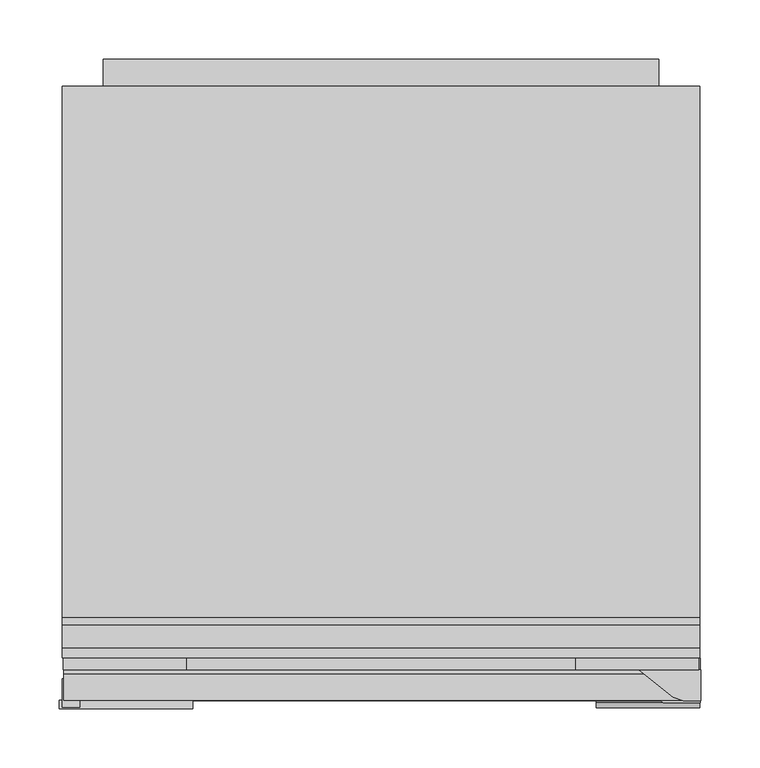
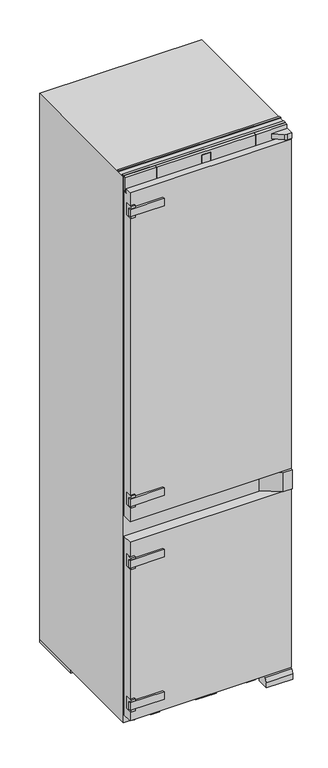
"""IFC4 building model written with IfcOpenShell, lengths in millimetres: proxy geometry, 12665220_EU1_KFN7833D : 38783300_EU1_12665220_KFN7833D."""

from ifc_helpers import new_model, si_unit, point, frame, frame_2d, origin, origin_with_axes, place, context, project, spatial, polyline, circle_curve, ellipse_curve, trimmed, segment, composite_curve, outline, extrude, faceted_brep, source, transform, mapped, element, save
from ifc_brep_helpers import plane_surface, cylinder_surface, advanced_brep


def specialty_equipment_9df1b869(model_context):
    return source(origin(), model_context, "Body", "SolidModel", [
        extrude(outline(polyline([(-268.65, 43.0), (268.65, 43.0), (268.65, 7.0), (-268.65, 7.0), (-268.65, 43.0)])), frame((0.0, 0.0, 38.0), z_axis=(0.0, 0.0, 1.0), x_axis=(1.0, 0.0, 0.0)), (0.0, 0.0, 1.0), 629.0),
        extrude(outline(polyline([(7.0, 740.0), (7.0, 1900.0), (29.0, 1900.0), (29.0, 1885.0), (43.0, 1885.0), (43.0, 740.0), (7.0, 740.0)])), frame((-268.65, 0.0, 0.0), z_axis=(1.0, 0.0, 0.0), x_axis=(0.0, 1.0, 0.0)), (0.0, 0.0, 1.0), 537.3),
        extrude(outline(polyline([(270.3000183, 43.0), (270.3000183, 5.2663956), (238.8417386, 5.2663956), (183.381756, 43.0), (270.3000183, 43.0)])), frame((0.0, 0.0, 668.7999878), z_axis=(0.0, 0.0, 1.0), x_axis=(1.0, 0.0, 0.0)), (0.0, 0.0, 1.0), 67.0939941),
        extrude(outline(polyline([(5.8723914, 32.6322899), (43.0, 32.6322899), (43.0, 0.0), (0.999771, 0.0), (0.999771, 18.2407634), (5.8723914, 32.6322899)])), frame((182.2297431, 0.0, 0.0), z_axis=(1.0, 0.0, 0.0), x_axis=(0.0, 1.0, 0.0)), (0.0, 0.0, 1.0), 87.6721752),
        extrude(outline(polyline([(218.4633026, 33.0), (270.6068786, 33.0), (270.6068786, 6.5), (255.9173725, 6.5), (247.3269973, 9.6266409), (218.4633026, 33.0)])), frame((0.0, 0.0, 1903.4138184), z_axis=(0.0, 0.0, 1.0), x_axis=(1.0, 0.0, 0.0)), (0.0, 0.0, 1.0), 18.633667),
        faceted_brep([(-272.6196655, 0.0, 1845.9196777), (-272.6196655, 0.0, 1819.6999512), (-159.4829402, 0.0, 1819.6999512), (-159.4829402, 0.0, 1845.9196777), (-159.4829402, 7.0, 1845.9196777), (-159.4829402, 7.0, 1819.6999512), (-254.8999939, 7.0, 1819.6999512), (-254.8999939, 7.0, 1845.9196777), (-272.6196655, 7.0, 1819.6999512), (-272.6196655, 7.0, 1845.9196777), (-269.8999939, 7.0, 1845.9196777), (-269.8999939, 7.0, 1819.6999512), (-254.8999939, 1.1000061, 1845.9196777), (-269.8999939, 1.1000061, 1845.9196777), (-269.8999939, 1.1000061, 1819.6999512), (-254.8999939, 1.1000061, 1819.6999512), (-254.8999939, 1.1000061, 1811.8499756), (-254.8999939, 25.1000061, 1811.8499756), (-254.8999939, 25.1000061, 1853.8499756), (-254.8999939, 1.1000061, 1853.8499756), (-269.8999939, 1.1000061, 1853.8499756), (-269.8999939, 25.1000061, 1853.8499756), (-269.8999939, 25.1000061, 1811.8499756), (-269.8999939, 1.1000061, 1811.8499756)], [[[0, 1, 2, 3]], [[4, 5, 6, 7]], [[8, 9, 10, 11]], [[0, 3, 4, 7, 12, 13, 10, 9]], [[3, 2, 5, 4]], [[2, 1, 8, 11, 14, 15, 6, 5]], [[1, 0, 9, 8]], [[16, 17, 18, 19, 12, 7, 6, 15]], [[20, 21, 22, 23, 14, 11, 10, 13]], [[17, 16, 23, 22]], [[18, 17, 22, 21]], [[19, 18, 21, 20]], [[23, 16, 15, 14]], [[19, 20, 13, 12]]]),
        faceted_brep([(-272.6196655, 0.0, 825.000061), (-272.6196655, 0.0, 798.7803345), (-159.4829402, 0.0, 798.7803345), (-159.4829402, 0.0, 825.000061), (-159.4829402, 7.0, 825.000061), (-159.4829402, 7.0, 798.7803345), (-254.8999939, 7.0, 798.7803345), (-254.8999939, 7.0, 825.000061), (-272.6196655, 7.0, 798.7803345), (-272.6196655, 7.0, 825.000061), (-269.8999939, 7.0, 825.000061), (-269.8999939, 7.0, 798.7803345), (-254.8999939, 1.1000061, 825.000061), (-269.8999939, 1.1000061, 825.000061), (-269.8999939, 1.1000061, 798.7803345), (-254.8999939, 1.1000061, 798.7803345), (-254.8999939, 1.1000061, 790.9303589), (-254.8999939, 25.1000061, 790.9303589), (-254.8999939, 25.1000061, 832.9303589), (-254.8999939, 1.1000061, 832.9303589), (-269.8999939, 1.1000061, 832.9303589), (-269.8999939, 25.1000061, 832.9303589), (-269.8999939, 25.1000061, 790.9303589), (-269.8999939, 1.1000061, 790.9303589)], [[[0, 1, 2, 3]], [[4, 5, 6, 7]], [[8, 9, 10, 11]], [[0, 3, 4, 7, 12, 13, 10, 9]], [[3, 2, 5, 4]], [[2, 1, 8, 11, 14, 15, 6, 5]], [[1, 0, 9, 8]], [[16, 17, 18, 19, 12, 7, 6, 15]], [[20, 21, 22, 23, 14, 11, 10, 13]], [[17, 16, 23, 22]], [[18, 17, 22, 21]], [[19, 18, 21, 20]], [[23, 16, 15, 14]], [[19, 20, 13, 12]]]),
        extrude(outline(polyline([(-272.6196655, 7.0), (-159.4829402, 7.0), (-159.4829402, 0.0), (-272.6196655, 0.0), (-272.6196655, 7.0)])), frame((0.0, 0.0, 581.5499878), z_axis=(0.0, 0.0, 1.0), x_axis=(1.0, 0.0, 0.0)), (0.0, 0.0, 1.0), 26.2197266),
        extrude(outline(polyline([(-254.8999939, 25.1000061), (-254.8999939, 1.1000061), (-269.8999939, 1.1000061), (-269.8999939, 25.1000061), (-254.8999939, 25.1000061)])), frame((0.0, 0.0, 573.7000122), z_axis=(0.0, 0.0, 1.0), x_axis=(1.0, 0.0, 0.0)), (0.0, 0.0, 1.0), 42.0),
        extrude(outline(polyline([(-272.6196655, 7.0), (-159.4829402, 7.0), (-159.4829402, 0.0), (-272.6196655, 0.0), (-272.6196655, 7.0)])), frame((0.0, 0.0, 80.0448608), z_axis=(0.0, 0.0, 1.0), x_axis=(1.0, 0.0, 0.0)), (0.0, 0.0, 1.0), 26.2197266),
        extrude(outline(polyline([(-254.8999939, 25.1000061), (-254.8999939, 1.1000061), (-269.8999939, 1.1000061), (-269.8999939, 25.1000061), (-254.8999939, 25.1000061)])), frame((0.0, 0.0, 72.1948853), z_axis=(0.0, 0.0, 1.0), x_axis=(1.0, 0.0, 0.0)), (0.0, 0.0, 1.0), 42.0),
        extrude(outline(polyline([(-15.0, 34.0), (15.0, 34.0), (15.0, 33.0), (-15.0, 33.0), (-15.0, 34.0)])), frame((0.0, 0.0, 1898.0), z_axis=(0.0, 0.0, 1.0), x_axis=(1.0, 0.0, 0.0)), (0.0, 0.0, 1.0), 30.0),
        extrude(outline(polyline([(-269.0, 43.0), (-165.0, 43.0), (-165.0, 33.0), (-269.0, 33.0), (-269.0, 43.0)])), frame((0.0, 0.0, 1888.0), z_axis=(0.0, 0.0, 1.0), x_axis=(1.0, 0.0, 0.0)), (0.0, 0.0, 1.0), 49.0),
        extrude(outline(polyline([(165.0, 43.0), (269.0, 43.0), (269.0, 33.0), (165.0, 33.0), (165.0, 43.0)])), frame((0.0, 0.0, 1888.0), z_axis=(0.0, 0.0, 1.0), x_axis=(1.0, 0.0, 0.0)), (0.0, 0.0, 1.0), 49.0),
        faceted_brep([(165.0, 33.0, 1937.0), (-165.0, 33.0, 1937.0), (-165.0, 33.0, 1888.0), (165.0, 33.0, 1888.0), (15.0, 33.0, 1928.0), (15.0, 33.0, 1898.0), (-15.0, 33.0, 1898.0), (-15.0, 33.0, 1928.0), (165.0, 43.0, 1937.0), (165.0, 43.0, 1888.0), (-165.0, 43.0, 1888.0), (-165.0, 43.0, 1937.0), (15.0, 34.0, 1928.0), (-15.0, 34.0, 1928.0), (-15.0, 34.0, 1898.0), (15.0, 34.0, 1898.0)], [[[0, 1, 2, 3], [4, 5, 6, 7]], [[8, 9, 10, 11]], [[0, 3, 9, 8]], [[3, 2, 10, 9]], [[2, 1, 11, 10]], [[1, 0, 8, 11]], [[12, 13, 14, 15]], [[12, 15, 5, 4]], [[15, 14, 6, 5]], [[14, 13, 7, 6]], [[13, 12, 4, 7]]]),
        faceted_brep([(270.0, 527.0, 1935.0), (-270.0, 527.0, 1935.0), (-270.0, 43.0, 1935.0), (270.0, 43.0, 1935.0), (270.0, 527.0, 10.0), (270.0, 43.0, 10.0), (-270.0, 43.0, 10.0), (-270.0, 527.0, 10.0), (234.0, 43.0, 1860.0), (234.0, 43.0, 765.0), (-234.0, 43.0, 765.0), (-234.0, 43.0, 1860.0), (209.0, 43.0, 633.0), (209.0, 43.0, 93.0), (-209.0, 43.0, 93.0), (-209.0, 43.0, 633.0), (234.0, 489.0, 1860.0), (-234.0, 489.0, 1860.0), (-234.0, 489.0, 765.0), (234.0, 489.0, 765.0), (209.0, 450.0, 633.0), (209.0, 450.0, 93.0), (-209.0, 450.0, 633.0), (-209.0, 450.0, 93.0)], [[[0, 1, 2, 3]], [[4, 5, 6, 7]], [[1, 0, 4, 7]], [[2, 1, 7, 6]], [[3, 2, 6, 5], [8, 9, 10, 11], [12, 13, 14, 15]], [[0, 3, 5, 4]], [[16, 17, 18, 19]], [[16, 19, 9, 8]], [[19, 18, 10, 9]], [[18, 17, 11, 10]], [[17, 16, 8, 11]], [[20, 21, 13, 12]], [[22, 15, 14, 23]], [[21, 20, 22, 23]], [[13, 21, 23, 14]], [[20, 12, 15, 22]]]),
        extrude(outline(composite_curve([segment(trimmed(circle_curve(frame_2d((228.0, 63.0)), 11.0), [point((239.0, 63.0))], [point((217.0, 63.0))], False, "CARTESIAN"), True, "CONTINUOUS"), segment(trimmed(circle_curve(frame_2d((228.0, 63.0)), 11.0), [point((217.0, 63.0))], [point((239.0, 63.0))], False, "CARTESIAN"), True, "CONTINUOUS")], self_intersect=False)), origin_with_axes(), (0.0, 0.0, 1.0), 10.0),
        extrude(outline(composite_curve([segment(trimmed(circle_curve(frame_2d((-228.0, 63.0)), 11.0), [point((-217.0, 63.0))], [point((-239.0, 63.0))], False, "CARTESIAN"), True, "CONTINUOUS"), segment(trimmed(circle_curve(frame_2d((-228.0, 63.0)), 11.0), [point((-239.0, 63.0))], [point((-217.0, 63.0))], False, "CARTESIAN"), True, "CONTINUOUS")], self_intersect=False)), origin_with_axes(), (0.0, 0.0, 1.0), 10.0),
        extrude(outline(polyline([(-209.0, 349.0), (-209.0, 450.0), (209.0, 450.0), (209.0, 349.0), (-209.0, 349.0)])), frame((0.0, 0.0, 93.0), z_axis=(0.0, 0.0, 1.0), x_axis=(1.0, 0.0, 0.0)), (0.0, 0.0, 1.0), 140.0),
        extrude(outline(polyline([(-234.0, 43.0), (-234.0, 489.0), (234.0, 489.0), (234.0, 43.0), (-234.0, 43.0)])), frame((0.0, 0.0, 960.0), z_axis=(0.0, 0.0, 1.0), x_axis=(1.0, 0.0, 0.0)), (0.0, 0.0, 1.0), 3.0),
        extrude(outline(polyline([(270.0, 51.0), (270.0, 43.0), (-270.0, 43.0), (-270.0, 51.0), (270.0, 51.0)])), frame((0.0, 0.0, 1935.0), z_axis=(0.0, 0.0, 1.0), x_axis=(1.0, 0.0, 0.0)), (0.0, 0.0, 1.0), 3.0),
        extrude(outline(polyline([(270.0, 77.0), (270.0, 71.0), (-270.0, 71.0), (-270.0, 77.0), (270.0, 77.0)])), frame((0.0, 0.0, 1935.0), z_axis=(0.0, 0.0, 1.0), x_axis=(1.0, 0.0, 0.0)), (0.0, 0.0, 1.0), 3.0),
        extrude(outline(polyline([(-34.0, 43.0), (34.0, 43.0), (34.0, 34.0), (-34.0, 34.0), (-34.0, 43.0)])), frame((0.0, 0.0, 13.0), z_axis=(0.0, 0.0, 1.0), x_axis=(1.0, 0.0, 0.0)), (0.0, 0.0, 1.0), 19.0),
        advanced_brep(
        [(232.5, 527.0, 145.0), (217.5, 527.0, 145.0), (232.5, 548.5, 145.0), (217.5, 533.5, 145.0), (195.0, 548.5, 145.0), (195.0, 533.5, 145.0)],
        [
            (0, 1, circle_curve(frame((225.0, 527.0, 145.0), z_axis=(0.0, -1.0, 0.0), x_axis=(-1.0, 0.0, 0.0)), 7.5)),
            (1, 0, circle_curve(frame((225.0, 527.0, 145.0), z_axis=(0.0, -1.0, 0.0), x_axis=(-1.0, 0.0, 0.0)), 7.5)),
            (0, 2),
            (2, 3, ellipse_curve(frame((225.0, 541.0, 145.0), z_axis=(0.7071067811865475, -0.7071067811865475, 0.0), x_axis=(-0.7071067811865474, -0.7071067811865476, 0.0)), 10.6066017, 7.5)),
            (3, 1),
            (3, 2, ellipse_curve(frame((225.0, 541.0, 145.0), z_axis=(0.7071067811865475, -0.7071067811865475, 0.0), x_axis=(-0.7071067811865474, -0.7071067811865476, 0.0)), 10.6066017, 7.5)),
            (4, 5, circle_curve(frame((195.0, 541.0, 145.0), z_axis=(-1.0, 0.0, 0.0), x_axis=(0.0, -1.0, 0.0)), 7.5)),
            (5, 4, circle_curve(frame((195.0, 541.0, 145.0), z_axis=(-1.0, 0.0, 0.0), x_axis=(0.0, -1.0, 0.0)), 7.5)),
            (2, 4),
            (5, 3),
        ],
        [
            plane_surface(frame((225.0, 527.0, 145.0), z_axis=(0.0, -1.0, 0.0), x_axis=(0.0, 0.0, 1.0))),
            cylinder_surface(frame((225.0, 527.0, 145.0), z_axis=(0.0, -1.0, 0.0), x_axis=(-1.0, 0.0, 0.0)), 7.5),
            plane_surface(frame((195.0, 541.0, 145.0), z_axis=(-1.0, 0.0, 0.0), x_axis=(0.0, 0.0, 1.0))),
            cylinder_surface(frame((225.0, 541.0, 145.0), z_axis=(1.0, 0.0, 0.0), x_axis=(0.0, -1.0, 0.0)), 7.5),
        ],
        [
            (0, [[1, 2]]),
            (1, [[-1, 3, 4, 5]]),
            (1, [[-2, -5, 6, -3]]),
            (2, [[7, 8]]),
            (3, [[-4, 9, -8, 10]]),
            (3, [[-6, -10, -7, -9]]),
        ],
    ),
        extrude(outline(polyline([(540.4384039, 149.874164), (547.6647626, 149.874164), (547.6647626, 139.824714), (540.2826236, 139.824714), (540.2826236, 141.0836119), (546.4056247, 141.0836119), (546.4056247, 144.3750411), (540.7614845, 144.3750411), (540.7614845, 145.6249589), (546.4056247, 145.6249589), (546.4056247, 148.6148402), (540.4384039, 148.6148402), (540.4384039, 149.874164)])), frame((194.0, 0.0, 0.0), z_axis=(1.0, 0.0, 0.0), x_axis=(0.0, 1.0, 0.0)), (0.0, 0.0, 1.0), 1.0),
        extrude(outline(polyline([(537.1383052, 149.8716162), (538.399354, 149.8716162), (538.399354, 139.824714), (532.1225656, 139.824714), (532.1225656, 141.0927041), (537.1383052, 141.0927041), (537.1383052, 149.8716162)])), frame((194.0, 0.0, 0.0), z_axis=(1.0, 0.0, 0.0), x_axis=(0.0, 1.0, 0.0)), (0.0, 0.0, 1.0), 1.0),
        extrude(outline(polyline([(-144.929185, 51.0), (-174.0, 51.0), (-194.6983363, 347.0), (-165.6275213, 347.0), (-144.929185, 51.0)])), origin_with_axes(), (0.0, 0.0, 1.0), 10.0),
        extrude(outline(polyline([(144.929185, 51.0), (165.6275213, 347.0), (194.6983363, 347.0), (174.0, 51.0), (144.929185, 51.0)])), origin_with_axes(), (0.0, 0.0, 1.0), 10.0),
        extrude(outline(polyline([(1651.5, -235.0), (27.0, -235.0), (27.0, 235.0), (130.0, 235.0), (130.0, 180.0), (160.0, 180.0), (160.0, 235.0), (1651.5, 235.0), (1651.5, -235.0)])), frame((0.0, 527.0, 0.0), z_axis=(0.0, 1.0, 0.0), x_axis=(0.0, 0.0, 1.0)), (0.0, 0.0, 1.0), 23.0),
        extrude(outline(polyline([(270.0, 527.0), (270.0, 347.0), (-270.0, 347.0), (-270.0, 527.0), (270.0, 527.0)])), origin_with_axes(), (0.0, 0.0, 1.0), 10.0),
    ])


if __name__ == "__main__":
    model = new_model("IFC4")
    model_context = context("Model", 3, world=origin())
    ifc_project = project(units=[si_unit("LENGTHUNIT", "METRE", prefix="MILLI")], contexts=[model_context])
    site = spatial("IfcSite", under=ifc_project)
    building = spatial("IfcBuilding", under=site)
    placement = place(None, origin())
    specialty_equipment_shape = specialty_equipment_9df1b869(model_context)
    element("IfcBuildingElementProxy", 1, Name="12665220_EU1_KFN7833D : 38783300_EU1_12665220_KFN7833D", ObjectType="12665220_EU1_KFN7833D : 38783300_EU1_12665220_KFN7833D", at=placement, inside=building, context=model_context, shape_type="MappedRepresentation", body=[
        mapped(specialty_equipment_shape, transform((0.0, 0.0, 0.0), x_axis=(1.0, 0.0, 0.0), y_axis=(0.0, 1.0, 0.0), z_axis=(0.0, 0.0, 1.0))),
    ])
    save(model, "model.ifc")
